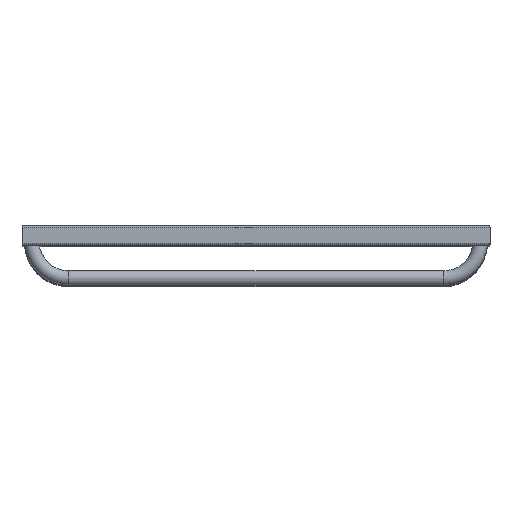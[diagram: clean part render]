
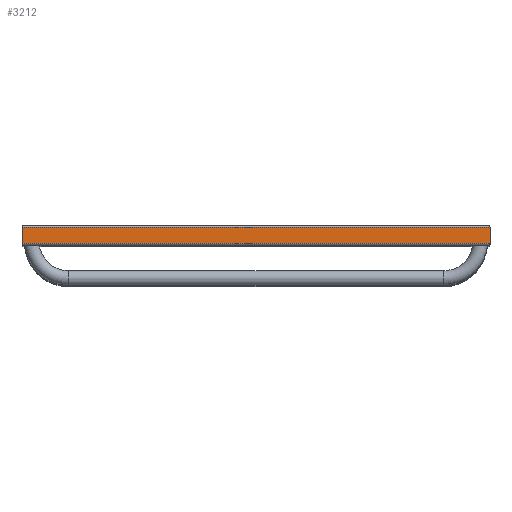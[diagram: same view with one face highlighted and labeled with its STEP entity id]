
A CAD part, top view. The second image highlights one B-rep face of the part: STEP entity #3212.
In plain terms, the highlighted planar face has unit normal (0, 0, 1).
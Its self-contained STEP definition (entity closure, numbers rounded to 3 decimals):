
#243=CARTESIAN_POINT('',(350.0,12.,1215.0));
#244=VERTEX_POINT('',#243);
#251=CARTESIAN_POINT('',(350.0,-12.,1215.0));
#252=VERTEX_POINT('',#251);
#253=CARTESIAN_POINT('',(350.0,12.,1215.0));
#254=DIRECTION('',(0.0,-1.0,0.0));
#255=VECTOR('',#254,24.);
#256=LINE('',#253,#255);
#257=EDGE_CURVE('',#244,#252,#256,.T.);
#3063=CARTESIAN_POINT('',(-350.0,12.,1215.0));
#3064=VERTEX_POINT('',#3063);
#3065=CARTESIAN_POINT('',(-350.0,12.,1215.0));
#3066=DIRECTION('',(1.0,0.0,0.0));
#3067=VECTOR('',#3066,700.0);
#3068=LINE('',#3065,#3067);
#3069=EDGE_CURVE('',#3064,#244,#3068,.T.);
#3107=CARTESIAN_POINT('',(-350.0,-12.,1215.0));
#3108=VERTEX_POINT('',#3107);
#3115=CARTESIAN_POINT('',(-350.0,-12.,1215.0));
#3116=DIRECTION('',(0.0,1.0,0.0));
#3117=VECTOR('',#3116,24.);
#3118=LINE('',#3115,#3117);
#3119=EDGE_CURVE('',#3108,#3064,#3118,.T.);
#3171=CARTESIAN_POINT('',(350.0,-12.,1215.0));
#3172=DIRECTION('',(-1.0,0.0,0.0));
#3173=VECTOR('',#3172,700.0);
#3174=LINE('',#3171,#3173);
#3175=EDGE_CURVE('',#252,#3108,#3174,.T.);
#3201=CARTESIAN_POINT('',(335.0,0.,1215.0));
#3202=DIRECTION('',(0.0,0.0,1.0));
#3203=DIRECTION('',(1.0,0.0,0.0));
#3204=AXIS2_PLACEMENT_3D('',#3201,#3202,#3203);
#3205=PLANE('',#3204);
#3206=ORIENTED_EDGE('',*,*,#3069,.F.);
#3207=ORIENTED_EDGE('',*,*,#3119,.F.);
#3208=ORIENTED_EDGE('',*,*,#3175,.F.);
#3209=ORIENTED_EDGE('',*,*,#257,.F.);
#3210=EDGE_LOOP('',(#3206,#3207,#3208,#3209));
#3211=FACE_OUTER_BOUND('',#3210,.T.);
#3212=ADVANCED_FACE('',(#3211),#3205,.T.);
